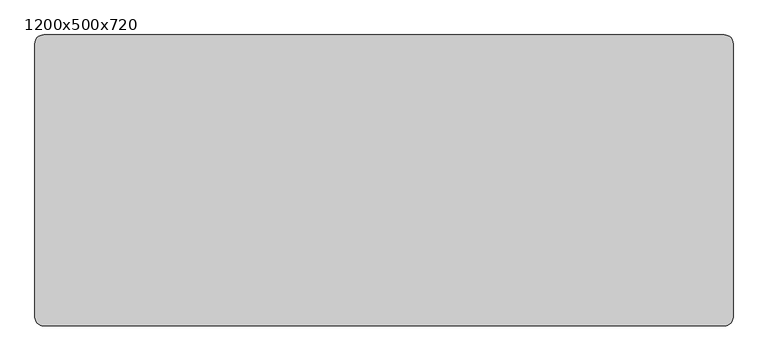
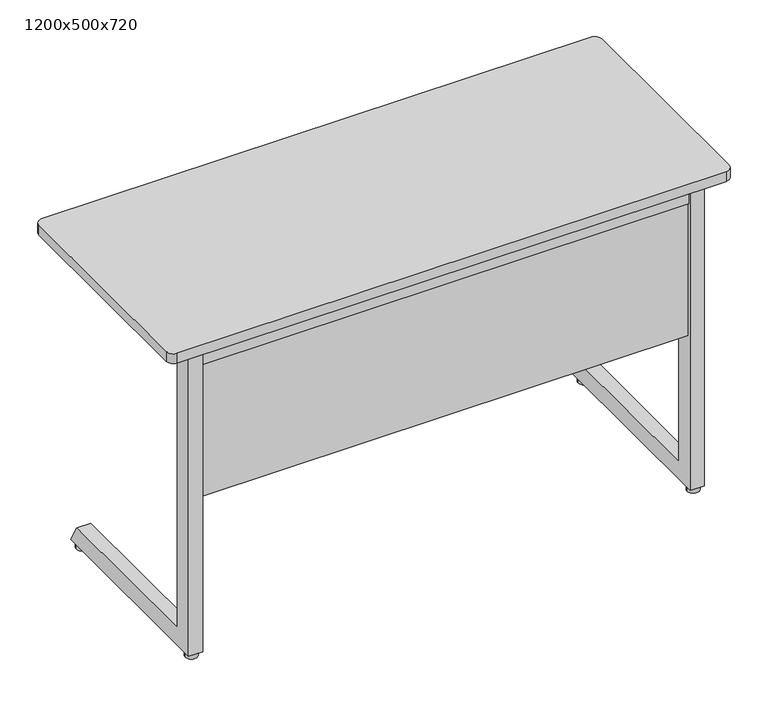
"""IFC4 building model written with IfcOpenShell, lengths in millimetres: furniture geometry, Trivia Light : 1200x500x720."""

from ifc_helpers import new_model, si_unit, point, frame, frame_2d, origin, origin_with_axes, place, context, project, spatial, polyline, circle_curve, trimmed, segment, composite_curve, outline, extrude, source, transform, mapped, element, save


def furniture_1200x500x720_f1a56f13(model_context):
    return source(origin(), model_context, "Body", "SweptSolid", [
        extrude(outline(polyline([(434.5100173, 698.0), (419.9996059, 666.4981092), (54.0, 666.4977978), (54.0, 698.0), (434.5100173, 698.0)])), frame((-464.7535601, 0.0, 0.0), z_axis=(1.0, 0.0, 0.0), x_axis=(0.0, 1.0, 0.0)), (0.0, 0.0, 1.0), 30.0),
        extrude(outline(polyline([(693.7997437, -467.7502136), (670.730957, -467.7502136), (670.730957, -499.8065042), (675.0394353, -511.6439509), (672.2203574, -512.6700113), (667.730957, -500.3354852), (667.730957, -464.7502136), (693.7997437, -464.7502136), (693.7997437, -467.7502136)])), frame((0.0, 215.0, 0.0), z_axis=(0.0, 1.0, 0.0), x_axis=(0.0, 0.0, 1.0)), (0.0, 0.0, 1.0), 30.0),
        extrude(outline(polyline([(693.7997437, 467.7535601), (693.7997437, 464.7535601), (667.730957, 464.7535601), (667.730957, 500.3388316), (672.2203574, 512.6733577), (675.0394353, 511.6472973), (670.730957, 499.8098507), (670.730957, 467.7535601), (693.7997437, 467.7535601)])), frame((0.0, 215.0, 0.0), z_axis=(0.0, 1.0, 0.0), x_axis=(0.0, 0.0, 1.0)), (0.0, 0.0, 1.0), 30.0),
        extrude(outline(composite_curve([segment(trimmed(circle_curve(frame_2d((-535.0, 35.0)), 13.0), [point((-548.0, 35.0))], [point((-522.0, 35.0))], False, "CARTESIAN"), True, "CONTINUOUS"), segment(trimmed(circle_curve(frame_2d((-535.0, 35.0)), 13.0), [point((-522.0, 35.0))], [point((-548.0, 35.0))], False, "CARTESIAN"), True, "CONTINUOUS")], self_intersect=False)), origin_with_axes(), (0.0, 0.0, 1.0), 13.0905762),
        extrude(outline(composite_curve([segment(trimmed(circle_curve(frame_2d((535.0, 35.0)), 13.0), [point((522.0, 35.0))], [point((548.0, 35.0))], False, "CARTESIAN"), True, "CONTINUOUS"), segment(trimmed(circle_curve(frame_2d((535.0, 35.0)), 13.0), [point((548.0, 35.0))], [point((522.0, 35.0))], False, "CARTESIAN"), True, "CONTINUOUS")], self_intersect=False)), origin_with_axes(), (0.0, 0.0, 1.0), 13.0905762),
        extrude(outline(composite_curve([segment(trimmed(circle_curve(frame_2d((535.0, 437.5)), 13.0), [point((522.0, 437.5))], [point((548.0, 437.5))], False, "CARTESIAN"), True, "CONTINUOUS"), segment(trimmed(circle_curve(frame_2d((535.0, 437.5)), 13.0), [point((548.0, 437.5))], [point((522.0, 437.5))], False, "CARTESIAN"), True, "CONTINUOUS")], self_intersect=False)), origin_with_axes(), (0.0, 0.0, 1.0), 13.0905762),
        extrude(outline(composite_curve([segment(trimmed(circle_curve(frame_2d((-535.0, 437.5)), 13.0), [point((-548.0, 437.5))], [point((-522.0, 437.5))], False, "CARTESIAN"), True, "CONTINUOUS"), segment(trimmed(circle_curve(frame_2d((-535.0, 437.5)), 13.0), [point((-522.0, 437.5))], [point((-548.0, 437.5))], False, "CARTESIAN"), True, "CONTINUOUS")], self_intersect=False)), origin_with_axes(), (0.0, 0.0, 1.0), 13.0905762),
        extrude(outline(polyline([(434.5100173, 698.0), (419.9996059, 666.4981092), (54.0, 666.4977978), (54.0, 698.0), (434.5100173, 698.0)])), frame((434.7535601, 0.0, 0.0), z_axis=(1.0, 0.0, 0.0), x_axis=(0.0, 1.0, 0.0)), (0.0, 0.0, 1.0), 30.0),
        extrude(outline(composite_curve([segment(trimmed(circle_curve(frame_2d((585.0, 485.0)), 15.0), [point((585.0, 500.0))], [point((600.0, 485.0))], False, "CARTESIAN"), True, "CONTINUOUS"), segment(polyline([(600.0, 485.0), (600.0, 15.0)]), True, "CONTINUOUS"), segment(trimmed(circle_curve(frame_2d((585.0, 15.0)), 15.0), [point((600.0, 15.0))], [point((585.0, 0.0))], False, "CARTESIAN"), True, "CONTINUOUS"), segment(polyline([(585.0, 0.0), (-585.0, 0.0)]), True, "CONTINUOUS"), segment(trimmed(circle_curve(frame_2d((-585.0, 15.0)), 15.0), [point((-585.0, 0.0))], [point((-600.0, 15.0))], False, "CARTESIAN"), True, "CONTINUOUS"), segment(polyline([(-600.0, 15.0), (-600.0, 485.0)]), True, "CONTINUOUS"), segment(trimmed(circle_curve(frame_2d((-585.0, 485.0)), 15.0), [point((-600.0, 485.0))], [point((-585.0, 500.0))], False, "CARTESIAN"), True, "CONTINUOUS"), segment(polyline([(-585.0, 500.0), (585.0, 500.0)]), True, "CONTINUOUS")], self_intersect=False)), frame((0.0, 0.0, 698.0), z_axis=(0.0, 0.0, 1.0), x_axis=(1.0, 0.0, 0.0)), (0.0, 0.0, 1.0), 22.0),
        extrude(outline(polyline([(519.7534307, 54.0), (519.7534307, 24.0), (-519.7534307, 24.0), (-519.7534307, 54.0), (519.7534307, 54.0)])), frame((0.0, 0.0, 656.0), z_axis=(0.0, 0.0, 1.0), x_axis=(1.0, 0.0, 0.0)), (0.0, 0.0, 1.0), 42.0),
        extrude(outline(polyline([(62.0, 51.5905762), (432.1448423, 51.5905762), (454.8944033, 11.5905762), (20.0, 11.5905762), (20.0, 698.0), (62.0, 698.0), (62.0, 51.5905762)])), frame((-549.7535601, 0.0, 0.0), z_axis=(1.0, 0.0, 0.0), x_axis=(0.0, 1.0, 0.0)), (0.0, 0.0, 1.0), 30.0001294),
        extrude(outline(polyline([(62.0, 51.5905762), (432.1448423, 51.5905762), (454.8944033, 11.5905762), (20.0, 11.5905762), (20.0, 698.0), (62.0, 698.0), (62.0, 51.5905762)])), frame((519.7534307, 0.0, 0.0), z_axis=(1.0, 0.0, 0.0), x_axis=(0.0, 1.0, 0.0)), (0.0, 0.0, 1.0), 30.0001294),
        extrude(outline(polyline([(519.7534307, 45.9187166), (519.7534307, 27.9321552), (-519.7534307, 27.9321552), (-519.7534307, 45.9187166), (519.7534307, 45.9187166)])), frame((0.0, 0.0, 356.5950628), z_axis=(0.0, 0.0, 1.0), x_axis=(1.0, 0.0, 0.0)), (0.0, 0.0, 1.0), 299.4049372),
    ])


if __name__ == "__main__":
    model = new_model("IFC4")
    model_context = context("Model", 3, world=origin())
    ifc_project = project(units=[si_unit("LENGTHUNIT", "METRE", prefix="MILLI")], contexts=[model_context])
    site = spatial("IfcSite", under=ifc_project)
    building = spatial("IfcBuilding", under=site)
    placement = place(None, origin())
    furniture_1200x500x720_shape = furniture_1200x500x720_f1a56f13(model_context)
    element("IfcFurniture", 1, ObjectType="Trivia Light : 1200x500x720", at=placement, inside=building, context=model_context, shape_type="MappedRepresentation", body=[
        mapped(furniture_1200x500x720_shape, transform((0.0, 0.0, 0.0), x_axis=(1.0, 0.0, 0.0), y_axis=(0.0, 1.0, 0.0), z_axis=(0.0, 0.0, 1.0))),
    ])
    save(model, "model.ifc")
